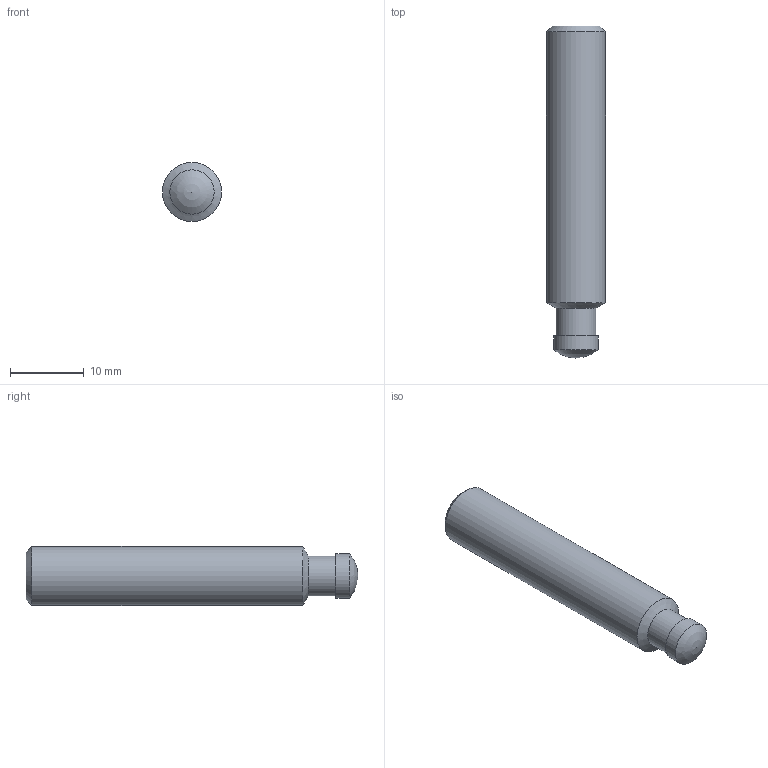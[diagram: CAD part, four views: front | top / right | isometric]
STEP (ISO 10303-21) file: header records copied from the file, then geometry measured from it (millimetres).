
FILE_DESCRIPTION( ( 'STEP AP203' ), '1' );
FILE_NAME( 'C:/Temp/Ganter_Step_05_03_2020/data/3_2/din6332/din6332/Grub screw DIN 6332-M8-45-SKN.stp', '2020-03-13T05:16:28', ( 'License CC BY-ND 4.0' ), ( 'CADENAS' ), ' ', 'PARTsolutions', ' ' );
FILE_SCHEMA( ( 'CONFIG_CONTROL_DESIGN' ) );
Length unit declared in the file: millimetre
Products named in the file (1): _Grub screw DIN 6332-M8-45-SKN
Bounding box: 8 x 45 x 8 mm (x, y, z)
Volume: 2025.5 mm3; surface area: 1183.3 mm2
Topology: 1 solids, 1 shells, 15 faces, 33 edges, 21 vertices
Faces by surface type: plane 9, cylinder 3, cone 2, sphere 1
Full cylindrical faces by diameter (mm): 5.4 x1, 6 x1, 8 x1
Entity records: 410 total; most frequent: DIRECTION 64, CARTESIAN_POINT 61, ORIENTED_EDGE 50, EDGE_CURVE 25, AXIS2_PLACEMENT_3D 23, EDGE_LOOP 22, VERTEX_POINT 20, FACE_OUTER_BOUND 18
